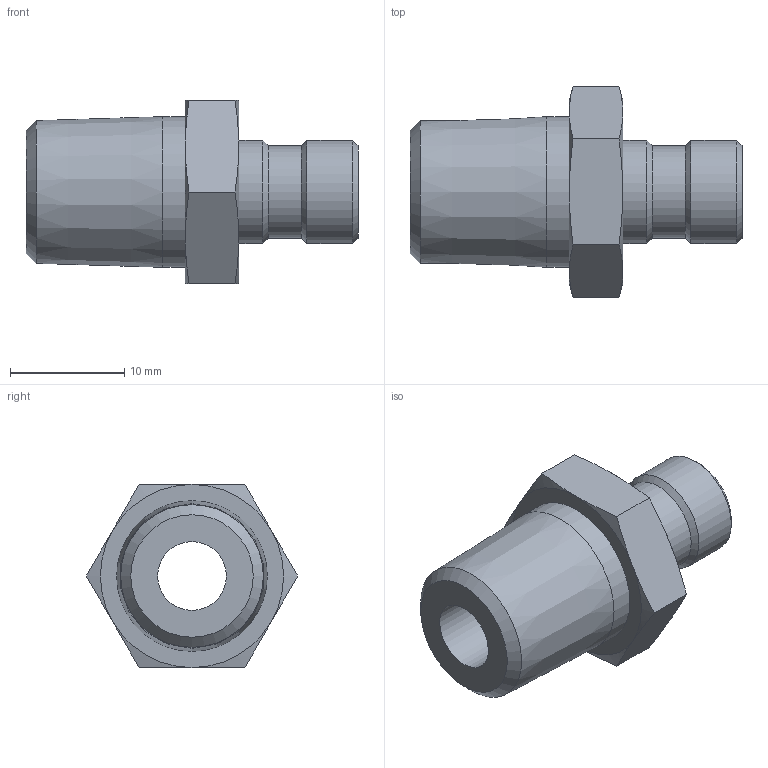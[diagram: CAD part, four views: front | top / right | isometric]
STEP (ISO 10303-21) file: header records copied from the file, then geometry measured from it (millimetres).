
FILE_DESCRIPTION(/* description */ ('STEP AP214'),/* implementation_level */ '2;1');
FILE_NAME(/* name */ 'N614A',/* time_stamp */ '2024-12-19T09:29:07+01:00',/* author */ ('License CC BY-ND 4.0'),/* organization */ ('CADENAS'),/* preprocessor_version */ 'ST-DEVELOPER v19.3',/* originating_system */ 'PARTsolutions',/* authorisation */ ' ');
FILE_SCHEMA (('AUTOMOTIVE_DESIGN {1 0 10303 214 3 1 1}'));
Length unit declared in the file: millimetre
Products named in the file (1): N614A
Bounding box: 29 x 18.48 x 16 mm (x, y, z)
Volume: 2614.6 mm3; surface area: 1994.1 mm2
Topology: 1 solids, 1 shells, 32 faces, 65 edges, 37 vertices
Faces by surface type: cone 17, plane 10, cylinder 5
Full cylindrical faces by diameter (mm): 6 x1, 8.04 x1, 9 x2, 13.157 x1
Entity records: 830 total; most frequent: CARTESIAN_POINT 197, DIRECTION 122, ORIENTED_EDGE 110, AXIS2_PLACEMENT_3D 58, EDGE_CURVE 55, EDGE_LOOP 46, FACE_BOUND 46, VERTEX_POINT 37
